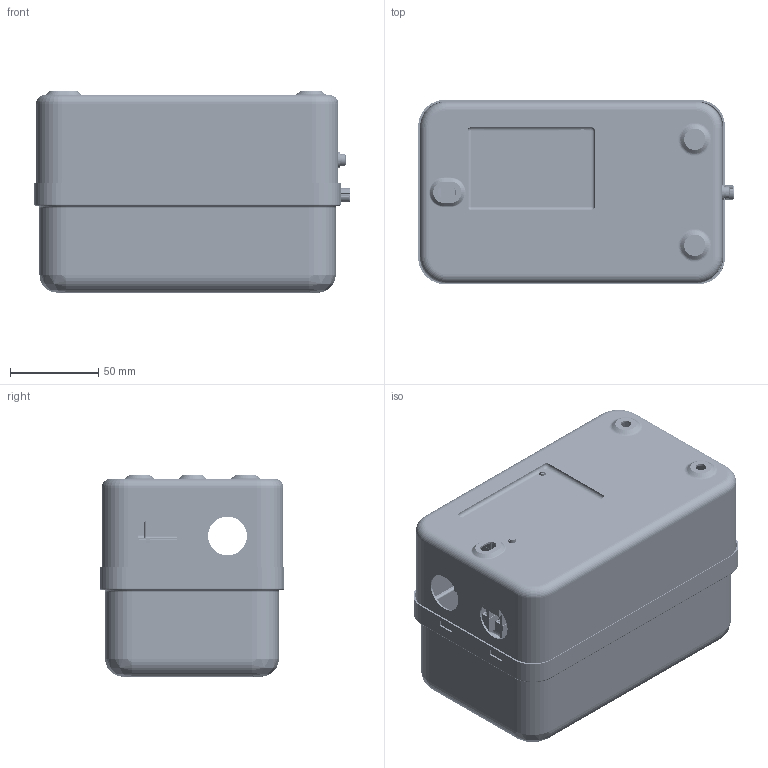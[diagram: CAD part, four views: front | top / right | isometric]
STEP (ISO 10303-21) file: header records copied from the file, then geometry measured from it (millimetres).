
FILE_DESCRIPTION((''),'2;1');
FILE_NAME('CDS2S-13B_ASM','2021-05-24T',('yunfei.yang'),(''),'PRO/ENGINEER BY PARAMETRIC TECHNOLOGY CORPORATION, 2015440','PRO/ENGINEER BY PARAMETRIC TECHNOLOGY CORPORATION, 2015440','');
FILE_SCHEMA(('CONFIG_CONTROL_DESIGN'));
Products named in the file (20): 8004000200; MANIFOLD_SOLID_BREP_146150; MANIFOLD_SOLID_BREP_150130; MANIFOLD_SOLID_BREP_154110; MANIFOLD_SOLID_BREP_158090; MANIFOLD_SOLID_BREP_162070; MANIFOLD_SOLID_BREP_166050; MANIFOLD_SOLID_BREP_170030; 2400022300_SW0001_1_ASM; CDC6I-09_ASM; MANIFOLD_SOLID_BREP_91292; MANIFOLD_SOLID_BREP_95264; MANIFOLD_SOLID_BREP_99236; MANIFOLD_SOLID_BREP_103208; 2331003800_SW0001_1_ASM; JR2H-25_ASM; 7030100424_GB_T9074_8_M4X12; 8004001800; PRT02; CDS2S-13B_ASM
Assembly tree (21 placements, depth 4):
  CDS2S-13B_ASM
    8004000200
    CDC6I-09_ASM
      2400022300_SW0001_1_ASM
        MANIFOLD_SOLID_BREP_146150
        MANIFOLD_SOLID_BREP_150130
        MANIFOLD_SOLID_BREP_154110
        MANIFOLD_SOLID_BREP_158090
        MANIFOLD_SOLID_BREP_162070
        MANIFOLD_SOLID_BREP_166050
        MANIFOLD_SOLID_BREP_170030
    JR2H-25_ASM
      2331003800_SW0001_1_ASM
        MANIFOLD_SOLID_BREP_91292
        MANIFOLD_SOLID_BREP_95264
        MANIFOLD_SOLID_BREP_99236
        MANIFOLD_SOLID_BREP_103208
    7030100424_GB_T9074_8_M4X12  x3
    8004001800
    PRT02
Bounding box: 178.6 x 104.2 x 113.9 mm (x, y, z)
Volume: 386553.1 mm3; surface area: 292306.9 mm2
Topology: 17 solids, 29 shells, 9594 faces, 26334 edges, 16925 vertices
Faces by surface type: plane 6999, cylinder 1631, torus 331, extrusion 206, cone 185, bspline 175, sphere 67
Entity records: 316432 total; most frequent: CARTESIAN_POINT 74814, ORIENTED_EDGE 52300, DIRECTION 46959, EDGE_CURVE 26156, VECTOR 20209, LINE 20003, VERTEX_POINT 16841, AXIS2_PLACEMENT_3D 13375
